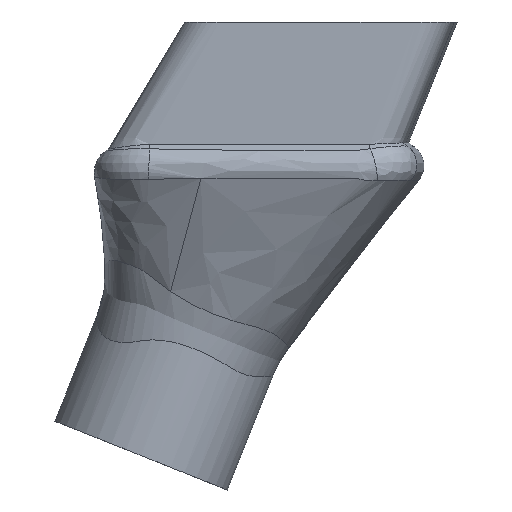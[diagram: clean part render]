
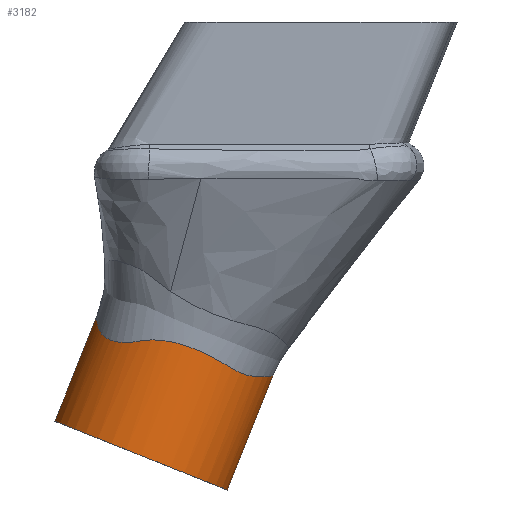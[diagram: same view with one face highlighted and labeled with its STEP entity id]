
A CAD part, front view. The second image highlights one B-rep face of the part: STEP entity #3182.
In plain terms, the highlighted cylindrical face has radius 8 mm (diameter 16 mm), a partial arc.
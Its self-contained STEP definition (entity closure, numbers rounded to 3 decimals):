
#280 = VERTEX_POINT ( 'NONE', #4747 ) ;
#302 = ORIENTED_EDGE ( 'NONE', *, *, #1450, .T. ) ;
#393 = CARTESIAN_POINT ( 'NONE',  ( -9.422, -7.668, -17.419 ) ) ;
#425 = CARTESIAN_POINT ( 'NONE',  ( -10.154, -7.428, -17.403 ) ) ;
#459 = CARTESIAN_POINT ( 'NONE',  ( -13.971, -4.587, -17.268 ) ) ;
#491 = CARTESIAN_POINT ( 'NONE',  ( -7.911, -7.976, -17.657 ) ) ;
#667 = CARTESIAN_POINT ( 'NONE',  ( -14.77, -0.804, -15.529 ) ) ;
#821 = EDGE_CURVE ( 'NONE', #5279, #2081, #1293, .T. ) ;
#901 = CARTESIAN_POINT ( 'NONE',  ( -14.766, -0.963, -15.572 ) ) ;
#932 = CARTESIAN_POINT ( 'NONE',  ( -2.649, -6.251, -20.126 ) ) ;
#964 = CARTESIAN_POINT ( 'NONE',  ( -3.392, -6.844, -19.692 ) ) ;
#999 = CARTESIAN_POINT ( 'NONE',  ( -14.581, -2.849, -16.363 ) ) ;
#1026 = ORIENTED_EDGE ( 'NONE', *, *, #2536, .F. ) ;
#1216 = CARTESIAN_POINT ( 'NONE',  ( 0.438, 0., -20.484 ) ) ;
#1242 = CARTESIAN_POINT ( 'NONE',  ( -18.359, 0., -24.417 ) ) ;
#1293 = CIRCLE ( 'NONE', #4652, 8. ) ;
#1387 = CARTESIAN_POINT ( 'NONE',  ( -10.393, -7.337, -17.417 ) ) ;
#1420 = CARTESIAN_POINT ( 'NONE',  ( -0.702, -3.916, -20.591 ) ) ;
#1449 = CARTESIAN_POINT ( 'NONE',  ( -11.779, -6.678, -17.614 ) ) ;
#1450 = EDGE_CURVE ( 'NONE', #5279, #280, #3695, .T. ) ;
#1481 = CARTESIAN_POINT ( 'NONE',  ( -14.493, -3.287, -16.626 ) ) ;
#1513 = CARTESIAN_POINT ( 'NONE',  ( -3.499, 0., -30.348 ) ) ;
#1514 = CARTESIAN_POINT ( 'NONE',  ( -13.529, -5.192, -17.464 ) ) ;
#1574 = B_SPLINE_CURVE_WITH_KNOTS ( 'NONE', 3,
 ( #5324, #667, #2750, #4811, #2107, #4157 ),
 .UNSPECIFIED., .F., .F.,
 ( 4, 2, 4 ),
 ( 0.05, 0.051, 0.051 ),
 .UNSPECIFIED. ) ;
#1899 = CARTESIAN_POINT ( 'NONE',  ( 0.374, -1.033, -20.509 ) ) ;
#1930 = CARTESIAN_POINT ( 'NONE',  ( -0.022, -2.524, -20.547 ) ) ;
#1961 = CARTESIAN_POINT ( 'NONE',  ( -13.365, -5.387, -17.516 ) ) ;
#1964 = CYLINDRICAL_SURFACE ( 'NONE', #5740, 8. ) ;
#1978 = ORIENTED_EDGE ( 'NONE', *, *, #6167, .T. ) ;
#1998 = CARTESIAN_POINT ( 'NONE',  ( -2.834, -6.41, -20.031 ) ) ;
#2029 = CARTESIAN_POINT ( 'NONE',  ( -7.417, -8.011, -17.796 ) ) ;
#2081 = VERTEX_POINT ( 'NONE', #1242 ) ;
#2107 = CARTESIAN_POINT ( 'NONE',  ( -14.761, -0.163, -15.401 ) ) ;
#2162 = LINE ( 'NONE', #4210, #2386 ) ;
#2386 = VECTOR ( 'NONE', #3676, 1000. ) ;
#2438 = CARTESIAN_POINT ( 'NONE',  ( -3.98, -7.213, -19.333 ) ) ;
#2452 = VERTEX_POINT ( 'NONE', #5246 ) ;
#2469 = CARTESIAN_POINT ( 'NONE',  ( -12.211, -6.402, -17.639 ) ) ;
#2498 = CARTESIAN_POINT ( 'NONE',  ( -10.929, 0., -27.383 ) ) ;
#2506 = CARTESIAN_POINT ( 'NONE',  ( -14.194, -4.164, -17.088 ) ) ;
#2536 = EDGE_CURVE ( 'NONE', #2081, #2452, #2162, .T. ) ;
#2540 = CARTESIAN_POINT ( 'NONE',  ( -14.636, -2.513, -16.179 ) ) ;
#2572 = CARTESIAN_POINT ( 'NONE',  ( -14.755, -1.465, -15.708 ) ) ;
#2640 = CARTESIAN_POINT ( 'NONE',  ( -14.766, -0.963, -15.572 ) ) ;
#2750 = CARTESIAN_POINT ( 'NONE',  ( -14.77, -0.645, -15.492 ) ) ;
#2784 = CARTESIAN_POINT ( 'NONE',  ( 0.433, -0.522, -20.496 ) ) ;
#2860 = EDGE_LOOP ( 'NONE', ( #1026, #4137, #302, #6074, #1978 ) ) ;
#2945 = CARTESIAN_POINT ( 'NONE',  ( -5.959, -7.904, -18.331 ) ) ;
#3010 = CARTESIAN_POINT ( 'NONE',  ( -2.29, -5.915, -20.287 ) ) ;
#3041 = CARTESIAN_POINT ( 'NONE',  ( -5.725, -7.859, -18.434 ) ) ;
#3044 = DIRECTION ( 'NONE',  ( 0.371, 0., 0.929 ) ) ;
#3072 = CARTESIAN_POINT ( 'NONE',  ( -10.864, -7.14, -17.481 ) ) ;
#3182 = ADVANCED_FACE ( 'NONE', ( #4054 ), #1964, .T. ) ;
#3188 = B_SPLINE_CURVE_WITH_KNOTS ( 'NONE', 3,
 ( #1216, #2784, #1899, #3580, #6655, #1930, #5651, #5016, #5116, #1420, #6560, #6625, #3989, #6059, #3010, #932, #1998, #4494, #964, #5082, #2438, #5555, #3450, #3041, #2945, #4525, #3518, #2029, #491, #6592, #4560, #393, #4050, #425, #1387, #5584, #3072, #3956, #4082, #6123, #1449, #2469, #6155, #5521, #5150, #1961, #1514, #459, #2506, #3484, #1481, #4020, #999, #3547, #2540, #4595, #2572, #901 ),
 .UNSPECIFIED., .F., .F.,
 ( 4, 2, 2, 2, 2, 2, 2, 2, 2, 2, 2, 2, 2, 2, 2, 2, 2, 2, 2, 2, 2, 2, 2, 2, 2, 2, 2, 2, 4 ),
 ( 0.025, 0.027, 0.028, 0.028, 0.029, 0.03, 0.031, 0.032, 0.033, 0.034, 0.035, 0.036, 0.037, 0.038, 0.039, 0.04, 0.041, 0.042, 0.042, 0.042, 0.043, 0.044, 0.045, 0.045, 0.047, 0.048, 0.048, 0.049, 0.05 ),
 .UNSPECIFIED. ) ;
#3450 = CARTESIAN_POINT ( 'NONE',  ( -5.041, -7.689, -18.751 ) ) ;
#3484 = CARTESIAN_POINT ( 'NONE',  ( -14.431, -3.507, -16.749 ) ) ;
#3487 = DIRECTION ( 'NONE',  ( 0.929, 0., -0.371 ) ) ;
#3518 = CARTESIAN_POINT ( 'NONE',  ( -6.683, -7.99, -18.046 ) ) ;
#3547 = CARTESIAN_POINT ( 'NONE',  ( -14.618, -2.626, -16.238 ) ) ;
#3551 = CARTESIAN_POINT ( 'NONE',  ( -10.929, 0., -27.383 ) ) ;
#3580 = CARTESIAN_POINT ( 'NONE',  ( 0.208, -1.785, -20.527 ) ) ;
#3676 = DIRECTION ( 'NONE',  ( 0.371, 0., 0.929 ) ) ;
#3695 = LINE ( 'NONE', #4293, #5954 ) ;
#3726 = DIRECTION ( 'NONE',  ( 0.371, 0., 0.929 ) ) ;
#3956 = CARTESIAN_POINT ( 'NONE',  ( -11.096, -7.035, -17.522 ) ) ;
#3989 = CARTESIAN_POINT ( 'NONE',  ( -1.603, -5.182, -20.517 ) ) ;
#4020 = CARTESIAN_POINT ( 'NONE',  ( -14.561, -2.958, -16.429 ) ) ;
#4050 = CARTESIAN_POINT ( 'NONE',  ( -9.668, -7.594, -17.404 ) ) ;
#4054 = FACE_OUTER_BOUND ( 'NONE', #2860, .T. ) ;
#4082 = CARTESIAN_POINT ( 'NONE',  ( -11.212, -6.98, -17.54 ) ) ;
#4137 = ORIENTED_EDGE ( 'NONE', *, *, #821, .F. ) ;
#4157 = CARTESIAN_POINT ( 'NONE',  ( -14.752, 0., -15.38 ) ) ;
#4210 = CARTESIAN_POINT ( 'NONE',  ( -18.359, 0., -24.417 ) ) ;
#4293 = CARTESIAN_POINT ( 'NONE',  ( -3.499, 0., -30.348 ) ) ;
#4494 = CARTESIAN_POINT ( 'NONE',  ( -3.206, -6.707, -19.815 ) ) ;
#4518 = DIRECTION ( 'NONE',  ( -0.371, 0., -0.929 ) ) ;
#4525 = CARTESIAN_POINT ( 'NONE',  ( -6.438, -7.97, -18.138 ) ) ;
#4560 = CARTESIAN_POINT ( 'NONE',  ( -8.92, -7.797, -17.472 ) ) ;
#4595 = CARTESIAN_POINT ( 'NONE',  ( -14.715, -1.943, -15.894 ) ) ;
#4652 = AXIS2_PLACEMENT_3D ( 'NONE', #2498, #4518, #5108 ) ;
#4747 = CARTESIAN_POINT ( 'NONE',  ( 0.438, 0., -20.484 ) ) ;
#4811 = CARTESIAN_POINT ( 'NONE',  ( -14.766, -0.324, -15.428 ) ) ;
#5016 = CARTESIAN_POINT ( 'NONE',  ( -0.329, -3.241, -20.567 ) ) ;
#5082 = CARTESIAN_POINT ( 'NONE',  ( -3.779, -7.097, -19.452 ) ) ;
#5108 = DIRECTION ( 'NONE',  ( -0.929, 0., 0.371 ) ) ;
#5116 = CARTESIAN_POINT ( 'NONE',  ( -0.446, -3.47, -20.574 ) ) ;
#5150 = CARTESIAN_POINT ( 'NONE',  ( -13.011, -5.755, -17.593 ) ) ;
#5246 = CARTESIAN_POINT ( 'NONE',  ( -14.752, 0., -15.38 ) ) ;
#5279 = VERTEX_POINT ( 'NONE', #1513 ) ;
#5324 = CARTESIAN_POINT ( 'NONE',  ( -14.766, -0.963, -15.572 ) ) ;
#5521 = CARTESIAN_POINT ( 'NONE',  ( -12.819, -5.93, -17.617 ) ) ;
#5555 = CARTESIAN_POINT ( 'NONE',  ( -4.605, -7.527, -18.978 ) ) ;
#5570 = VERTEX_POINT ( 'NONE', #2640 ) ;
#5584 = CARTESIAN_POINT ( 'NONE',  ( -10.747, -7.19, -17.46 ) ) ;
#5651 = CARTESIAN_POINT ( 'NONE',  ( -0.117, -2.769, -20.553 ) ) ;
#5740 = AXIS2_PLACEMENT_3D ( 'NONE', #3551, #3044, #3487 ) ;
#5954 = VECTOR ( 'NONE', #3726, 1000. ) ;
#6059 = CARTESIAN_POINT ( 'NONE',  ( -2.115, -5.738, -20.354 ) ) ;
#6074 = ORIENTED_EDGE ( 'NONE', *, *, #6575, .T. ) ;
#6123 = CARTESIAN_POINT ( 'NONE',  ( -11.555, -6.806, -17.59 ) ) ;
#6155 = CARTESIAN_POINT ( 'NONE',  ( -12.42, -6.253, -17.64 ) ) ;
#6167 = EDGE_CURVE ( 'NONE', #5570, #2452, #1574, .T. ) ;
#6560 = CARTESIAN_POINT ( 'NONE',  ( -0.84, -4.133, -20.596 ) ) ;
#6575 = EDGE_CURVE ( 'NONE', #280, #5570, #3188, .T. ) ;
#6592 = CARTESIAN_POINT ( 'NONE',  ( -8.665, -7.851, -17.511 ) ) ;
#6625 = CARTESIAN_POINT ( 'NONE',  ( -1.276, -4.772, -20.573 ) ) ;
#6655 = CARTESIAN_POINT ( 'NONE',  ( 0.14, -2.033, -20.534 ) ) ;
